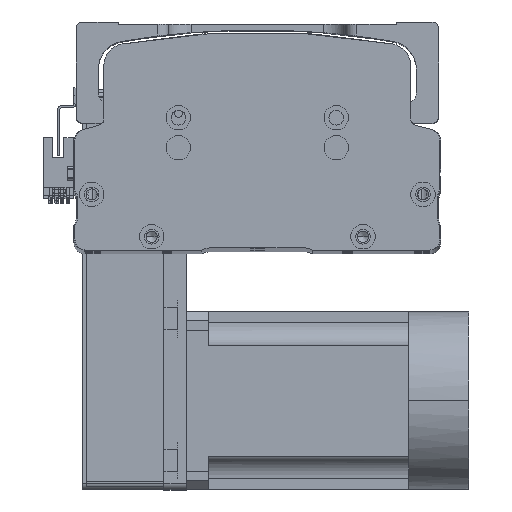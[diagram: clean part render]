
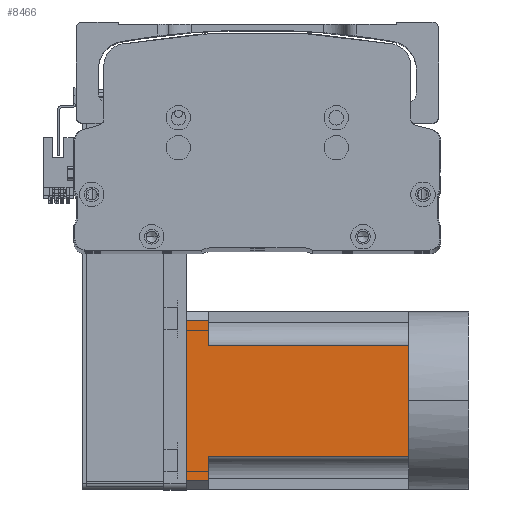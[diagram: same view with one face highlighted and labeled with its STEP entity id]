
A CAD part, top view. The second image highlights one B-rep face of the part: STEP entity #8466.
In plain terms, the highlighted planar face has unit normal (0, 0, 1) as drawn and (0, 0, -1) by its records, which use the part's own axes.
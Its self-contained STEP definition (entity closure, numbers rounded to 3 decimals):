
#1386 = CARTESIAN_POINT ( 'NONE',  ( 25., 0., -40. ) ) ;
#2610 = EDGE_CURVE ( 'NONE', #54696, #38623, #27682, .T. ) ;
#2705 = VECTOR ( 'NONE', #13057, 1000. ) ;
#3623 = CARTESIAN_POINT ( 'NONE',  ( 36., 90., -40. ) ) ;
#4236 = EDGE_CURVE ( 'NONE', #55216, #38352, #44476, .T. ) ;
#4526 = CARTESIAN_POINT ( 'NONE',  ( -40., 90., -40. ) ) ;
#4774 = VERTEX_POINT ( 'NONE', #7720 ) ;
#6140 = LINE ( 'NONE', #4526, #19261 ) ;
#6212 = CARTESIAN_POINT ( 'NONE',  ( -40., 90., -40. ) ) ;
#7018 = EDGE_CURVE ( 'NONE', #4774, #54696, #53897, .T. ) ;
#7720 = CARTESIAN_POINT ( 'NONE',  ( 25., 90., -40. ) ) ;
#8019 = DIRECTION ( 'NONE',  ( 0., -1., 0. ) ) ;
#8466 = ADVANCED_FACE ( 'NONE', ( #40642 ), #59674, .T. ) ;
#8702 = ORIENTED_EDGE ( 'NONE', *, *, #47347, .T. ) ;
#8782 = ORIENTED_EDGE ( 'NONE', *, *, #52255, .T. ) ;
#12043 = VECTOR ( 'NONE', #8019, 1000. ) ;
#12155 = DIRECTION ( 'NONE',  ( 0., 1., 0. ) ) ;
#12933 = VERTEX_POINT ( 'NONE', #57057 ) ;
#13057 = DIRECTION ( 'NONE',  ( -1., 0., 0. ) ) ;
#15466 = DIRECTION ( 'NONE',  ( -1., 0., 0. ) ) ;
#16390 = EDGE_CURVE ( 'NONE', #55216, #57306, #28953, .T. ) ;
#16658 = ORIENTED_EDGE ( 'NONE', *, *, #7018, .T. ) ;
#18691 = VECTOR ( 'NONE', #28902, 1000. ) ;
#19261 = VECTOR ( 'NONE', #29335, 1000. ) ;
#26826 = CARTESIAN_POINT ( 'NONE',  ( -25., -27., -40. ) ) ;
#27682 = LINE ( 'NONE', #61898, #39312 ) ;
#28902 = DIRECTION ( 'NONE',  ( 0., 1., 0. ) ) ;
#28953 = LINE ( 'NONE', #42631, #2705 ) ;
#29335 = DIRECTION ( 'NONE',  ( -1., 0., 0. ) ) ;
#30162 = CARTESIAN_POINT ( 'NONE',  ( -40., -27., -40. ) ) ;
#30163 = ORIENTED_EDGE ( 'NONE', *, *, #16390, .F. ) ;
#32317 = ORIENTED_EDGE ( 'NONE', *, *, #4236, .T. ) ;
#32723 = VECTOR ( 'NONE', #56456, 1000. ) ;
#32874 = DIRECTION ( 'NONE',  ( 0., -1., 0. ) ) ;
#34305 = LINE ( 'NONE', #61197, #32723 ) ;
#34424 = VECTOR ( 'NONE', #12155, 1000. ) ;
#36162 = EDGE_CURVE ( 'NONE', #12933, #40737, #6140, .T. ) ;
#36287 = LINE ( 'NONE', #6212, #59398 ) ;
#36477 = CARTESIAN_POINT ( 'NONE',  ( -36., 100., -40. ) ) ;
#37371 = DIRECTION ( 'NONE',  ( -1., 0., 0. ) ) ;
#37617 = CARTESIAN_POINT ( 'NONE',  ( 36., -27., -40. ) ) ;
#38352 = VERTEX_POINT ( 'NONE', #3623 ) ;
#38623 = VERTEX_POINT ( 'NONE', #60909 ) ;
#39312 = VECTOR ( 'NONE', #37371, 1000. ) ;
#40362 = ORIENTED_EDGE ( 'NONE', *, *, #53975, .T. ) ;
#40642 = FACE_OUTER_BOUND ( 'NONE', #60220, .T. ) ;
#40737 = VERTEX_POINT ( 'NONE', #49172 ) ;
#40745 = DIRECTION ( 'NONE',  ( -1., 0., 0. ) ) ;
#40808 = VECTOR ( 'NONE', #32874, 1000. ) ;
#41247 = CARTESIAN_POINT ( 'NONE',  ( 36., 100., -40. ) ) ;
#42198 = EDGE_CURVE ( 'NONE', #48344, #12933, #47481, .T. ) ;
#42631 = CARTESIAN_POINT ( 'NONE',  ( -40., 100., -40. ) ) ;
#44476 = LINE ( 'NONE', #37617, #12043 ) ;
#44969 = LINE ( 'NONE', #58415, #18691 ) ;
#45045 = DIRECTION ( 'NONE',  ( 0., 0., -1. ) ) ;
#47347 = EDGE_CURVE ( 'NONE', #38623, #48344, #34305, .T. ) ;
#47481 = LINE ( 'NONE', #26826, #34424 ) ;
#47845 = AXIS2_PLACEMENT_3D ( 'NONE', #30162, #45045, #15466 ) ;
#48344 = VERTEX_POINT ( 'NONE', #63007 ) ;
#49172 = CARTESIAN_POINT ( 'NONE',  ( -36., 90., -40. ) ) ;
#52255 = EDGE_CURVE ( 'NONE', #38352, #4774, #36287, .T. ) ;
#53897 = LINE ( 'NONE', #62153, #40808 ) ;
#53975 = EDGE_CURVE ( 'NONE', #40737, #57306, #44969, .T. ) ;
#54696 = VERTEX_POINT ( 'NONE', #1386 ) ;
#55216 = VERTEX_POINT ( 'NONE', #41247 ) ;
#56456 = DIRECTION ( 'NONE',  ( -1., 0., 0. ) ) ;
#57057 = CARTESIAN_POINT ( 'NONE',  ( -25., 90., -40. ) ) ;
#57306 = VERTEX_POINT ( 'NONE', #36477 ) ;
#57769 = ORIENTED_EDGE ( 'NONE', *, *, #42198, .T. ) ;
#58415 = CARTESIAN_POINT ( 'NONE',  ( -36., -27., -40. ) ) ;
#59398 = VECTOR ( 'NONE', #40745, 1000. ) ;
#59674 = PLANE ( 'NONE',  #47845 ) ;
#60220 = EDGE_LOOP ( 'NONE', ( #30163, #32317, #8782, #16658, #63268, #8702, #57769, #61022, #40362 ) ) ;
#60909 = CARTESIAN_POINT ( 'NONE',  ( 0., 0., -40. ) ) ;
#61022 = ORIENTED_EDGE ( 'NONE', *, *, #36162, .T. ) ;
#61197 = CARTESIAN_POINT ( 'NONE',  ( -40., 0., -40. ) ) ;
#61898 = CARTESIAN_POINT ( 'NONE',  ( -40., 0., -40. ) ) ;
#62153 = CARTESIAN_POINT ( 'NONE',  ( 25., -27., -40. ) ) ;
#63007 = CARTESIAN_POINT ( 'NONE',  ( -25., 0., -40. ) ) ;
#63268 = ORIENTED_EDGE ( 'NONE', *, *, #2610, .T. ) ;
